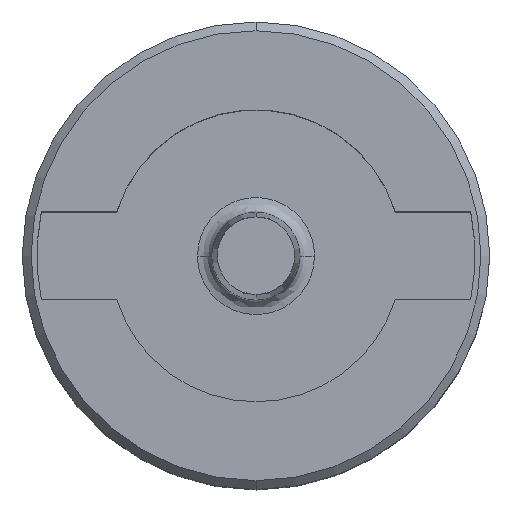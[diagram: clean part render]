
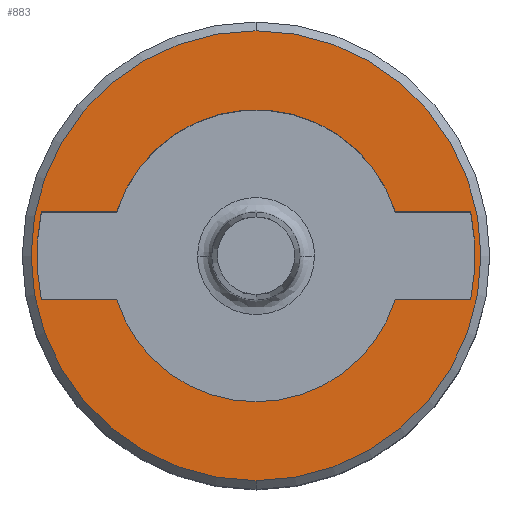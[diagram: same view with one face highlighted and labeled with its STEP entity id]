
A CAD part, top view. The second image highlights one B-rep face of the part: STEP entity #883.
In plain terms, the highlighted planar face has unit normal (0, 0, 1) as drawn and (0, -1, 0) by its records, which use the part's own axes.
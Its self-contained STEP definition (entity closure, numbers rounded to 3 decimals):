
#63 = CARTESIAN_POINT ( 'NONE',  ( 0., 0., 7.7 ) ) ;
#65 = CARTESIAN_POINT ( 'NONE',  ( -4.77, 0., 1.5 ) ) ;
#217 = CARTESIAN_POINT ( 'NONE',  ( 7.348, 0., -1.5 ) ) ;
#261 = CARTESIAN_POINT ( 'NONE',  ( 0., 0., -7.7 ) ) ;
#274 = CARTESIAN_POINT ( 'NONE',  ( -4.77, 0., -1.5 ) ) ;
#279 = CARTESIAN_POINT ( 'NONE',  ( -7.348, 0., 1.5 ) ) ;
#307 = CARTESIAN_POINT ( 'NONE',  ( -7.348, 0., -1.5 ) ) ;
#308 = CARTESIAN_POINT ( 'NONE',  ( 4.77, 0., 1.5 ) ) ;
#378 = CARTESIAN_POINT ( 'NONE',  ( 4.77, 0., -1.5 ) ) ;
#395 = CARTESIAN_POINT ( 'NONE',  ( 7.348, 0., 1.5 ) ) ;
#396 = CARTESIAN_POINT ( 'NONE',  ( 0., 0., -5. ) ) ;
#405 = EDGE_CURVE ( 'NONE', #1396, #1207, #1221, .T. ) ;
#417 = DIRECTION ( 'NONE',  ( 0., -1., 0. ) ) ;
#418 = DIRECTION ( 'NONE',  ( 0., 0., -1. ) ) ;
#427 = FACE_BOUND ( 'NONE', #1416, .T. ) ;
#498 = CARTESIAN_POINT ( 'NONE',  ( 0., 0., 0. ) ) ;
#501 = EDGE_CURVE ( 'NONE', #1159, #1396, #634, .T. ) ;
#502 = EDGE_CURVE ( 'NONE', #1188, #1349, #587, .T. ) ;
#540 = AXIS2_PLACEMENT_3D ( 'NONE', #893, #958, #1009 ) ;
#544 = VECTOR ( 'NONE', #998, 1000. ) ;
#549 = AXIS2_PLACEMENT_3D ( 'NONE', #1010, #912, #1007 ) ;
#550 = AXIS2_PLACEMENT_3D ( 'NONE', #926, #1008, #913 ) ;
#577 = CIRCLE ( 'NONE', #663, 5. ) ;
#587 = CIRCLE ( 'NONE', #549, 7.7 ) ;
#596 = CIRCLE ( 'NONE', #550, 7.7 ) ;
#624 = AXIS2_PLACEMENT_3D ( 'NONE', #918, #949, #1037 ) ;
#634 = CIRCLE ( 'NONE', #540, 7.5 ) ;
#642 = CIRCLE ( 'NONE', #624, 5. ) ;
#651 = AXIS2_PLACEMENT_3D ( 'NONE', #788, #861, #826 ) ;
#656 = VECTOR ( 'NONE', #989, 1000. ) ;
#663 = AXIS2_PLACEMENT_3D ( 'NONE', #953, #954, #955 ) ;
#687 = AXIS2_PLACEMENT_3D ( 'NONE', #498, #417, #418 ) ;
#688 = CIRCLE ( 'NONE', #687, 5. ) ;
#689 = VECTOR ( 'NONE', #780, 1000. ) ;
#690 = AXIS2_PLACEMENT_3D ( 'NONE', #777, #776, #782 ) ;
#691 = VECTOR ( 'NONE', #781, 1000. ) ;
#694 = CIRCLE ( 'NONE', #690, 7.5 ) ;
#708 = EDGE_CURVE ( 'NONE', #1349, #1188, #596, .T. ) ;
#720 = EDGE_CURVE ( 'NONE', #1399, #1352, #577, .T. ) ;
#729 = EDGE_CURVE ( 'NONE', #1352, #1159, #936, .T. ) ;
#731 = EDGE_CURVE ( 'NONE', #1203, #1399, #642, .T. ) ;
#762 = LINE ( 'NONE', #764, #691 ) ;
#764 = CARTESIAN_POINT ( 'NONE',  ( 0., 0., 1.5 ) ) ;
#776 = DIRECTION ( 'NONE',  ( 0., -1., 0. ) ) ;
#777 = CARTESIAN_POINT ( 'NONE',  ( 0., 0., 0. ) ) ;
#780 = DIRECTION ( 'NONE',  ( 1., 0., 0. ) ) ;
#781 = DIRECTION ( 'NONE',  ( -1., 0., 0. ) ) ;
#782 = DIRECTION ( 'NONE',  ( 0., 0., -1. ) ) ;
#783 = CARTESIAN_POINT ( 'NONE',  ( 0., 0., -1.5 ) ) ;
#784 = LINE ( 'NONE', #783, #689 ) ;
#788 = CARTESIAN_POINT ( 'NONE',  ( 0., 0., 0. ) ) ;
#799 = PLANE ( 'NONE',  #651 ) ;
#826 = DIRECTION ( 'NONE',  ( 0., 0., 1. ) ) ;
#853 = FACE_OUTER_BOUND ( 'NONE', #1323, .T. ) ;
#861 = DIRECTION ( 'NONE',  ( 0., 1., 0. ) ) ;
#883 = ADVANCED_FACE ( 'NONE', ( #427, #853 ), #799, .F. ) ;
#893 = CARTESIAN_POINT ( 'NONE',  ( 0., 0., 0. ) ) ;
#912 = DIRECTION ( 'NONE',  ( 0., 1., 0. ) ) ;
#913 = DIRECTION ( 'NONE',  ( 0., 0., 1. ) ) ;
#916 = CARTESIAN_POINT ( 'NONE',  ( 0., 0., -1.5 ) ) ;
#918 = CARTESIAN_POINT ( 'NONE',  ( 0., 0., 0. ) ) ;
#926 = CARTESIAN_POINT ( 'NONE',  ( 0., 0., 0. ) ) ;
#936 = LINE ( 'NONE', #916, #656 ) ;
#949 = DIRECTION ( 'NONE',  ( 0., -1., 0. ) ) ;
#953 = CARTESIAN_POINT ( 'NONE',  ( 0., 0., 0. ) ) ;
#954 = DIRECTION ( 'NONE',  ( 0., -1., 0. ) ) ;
#955 = DIRECTION ( 'NONE',  ( 0., 0., -1. ) ) ;
#958 = DIRECTION ( 'NONE',  ( 0., -1., 0. ) ) ;
#989 = DIRECTION ( 'NONE',  ( 1., 0., 0. ) ) ;
#995 = CARTESIAN_POINT ( 'NONE',  ( 0., 0., 1.5 ) ) ;
#998 = DIRECTION ( 'NONE',  ( -1., 0., 0. ) ) ;
#1007 = DIRECTION ( 'NONE',  ( 0., 0., 1. ) ) ;
#1008 = DIRECTION ( 'NONE',  ( 0., 1., 0. ) ) ;
#1009 = DIRECTION ( 'NONE',  ( 0., 0., -1. ) ) ;
#1010 = CARTESIAN_POINT ( 'NONE',  ( 0., 0., 0. ) ) ;
#1037 = DIRECTION ( 'NONE',  ( 0., 0., -1. ) ) ;
#1082 = EDGE_CURVE ( 'NONE', #1239, #1209, #694, .T. ) ;
#1083 = EDGE_CURVE ( 'NONE', #1299, #1239, #762, .T. ) ;
#1084 = EDGE_CURVE ( 'NONE', #1209, #1203, #784, .T. ) ;
#1085 = EDGE_CURVE ( 'NONE', #1207, #1299, #688, .T. ) ;
#1133 = ORIENTED_EDGE ( 'NONE', *, *, #708, .F. ) ;
#1141 = ORIENTED_EDGE ( 'NONE', *, *, #502, .F. ) ;
#1159 = VERTEX_POINT ( 'NONE', #217 ) ;
#1163 = ORIENTED_EDGE ( 'NONE', *, *, #729, .F. ) ;
#1171 = ORIENTED_EDGE ( 'NONE', *, *, #731, .F. ) ;
#1187 = ORIENTED_EDGE ( 'NONE', *, *, #1083, .F. ) ;
#1188 = VERTEX_POINT ( 'NONE', #261 ) ;
#1199 = ORIENTED_EDGE ( 'NONE', *, *, #1084, .F. ) ;
#1202 = ORIENTED_EDGE ( 'NONE', *, *, #501, .F. ) ;
#1203 = VERTEX_POINT ( 'NONE', #274 ) ;
#1207 = VERTEX_POINT ( 'NONE', #308 ) ;
#1209 = VERTEX_POINT ( 'NONE', #307 ) ;
#1221 = LINE ( 'NONE', #995, #544 ) ;
#1230 = ORIENTED_EDGE ( 'NONE', *, *, #720, .F. ) ;
#1239 = VERTEX_POINT ( 'NONE', #279 ) ;
#1299 = VERTEX_POINT ( 'NONE', #65 ) ;
#1323 = EDGE_LOOP ( 'NONE', ( #1133, #1141 ) ) ;
#1324 = ORIENTED_EDGE ( 'NONE', *, *, #405, .F. ) ;
#1349 = VERTEX_POINT ( 'NONE', #63 ) ;
#1352 = VERTEX_POINT ( 'NONE', #378 ) ;
#1377 = ORIENTED_EDGE ( 'NONE', *, *, #1082, .F. ) ;
#1392 = ORIENTED_EDGE ( 'NONE', *, *, #1085, .F. ) ;
#1396 = VERTEX_POINT ( 'NONE', #395 ) ;
#1399 = VERTEX_POINT ( 'NONE', #396 ) ;
#1416 = EDGE_LOOP ( 'NONE', ( #1163, #1230, #1171, #1199, #1377, #1187, #1392, #1324, #1202 ) ) ;
